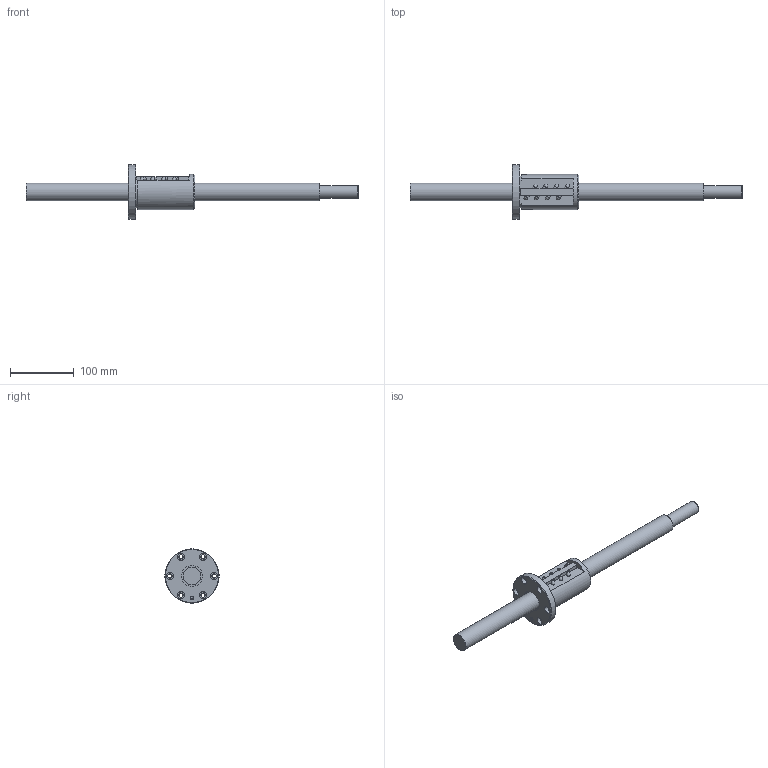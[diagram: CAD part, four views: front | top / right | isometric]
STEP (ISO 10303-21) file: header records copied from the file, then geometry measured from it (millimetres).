
FILE_DESCRIPTION(/* description */ ('STEP AP203'),/* implementation_level */ '2;1');
FILE_NAME(/* name */ 'BIF2806-10RRG0+520LC5A(00)',/* time_stamp */ '2024-07-15T07:28:43+02:00',/* author */ ('License CC BY-ND 4.0'),/* organization */ ('CADENAS'),/* preprocessor_version */ 'ST-DEVELOPER v19.3',/* originating_system */ 'PARTsolutions',/* authorisation */ ' ');
FILE_SCHEMA (('CONFIG_CONTROL_DESIGN'));
Length unit declared in the file: millimetre
Products named in the file (3): BIF2806-10RRG0+520LC5A(00); BIF2806-10RRG0+520LC5, C7A(0)_shaft; BIF 2806-10RR_nut
Assembly tree (2 placements, depth 2):
  BIF2806-10RRG0+520LC5A(00)
    BIF2806-10RRG0+520LC5, C7A(0)_shaft
    BIF 2806-10RR_nut
Bounding box: 520 x 85 x 85 mm (x, y, z)
Volume: 501231.4 mm3; surface area: 87557.2 mm2
Topology: 2 solids, 2 shells, 93 faces, 211 edges, 139 vertices
Faces by surface type: cylinder 44, plane 32, cone 9, torus 8
Full cylindrical faces by diameter (mm): 4.25 x2, 4.917 x1, 5.1 x8, 6.6 x6, 11 x6, 20.3 x1, 28 x2, 33 x2, 55 x1, 85 x1
Entity records: 2559 total; most frequent: CARTESIAN_POINT 505, DIRECTION 436, ORIENTED_EDGE 316, AXIS2_PLACEMENT_3D 198, EDGE_LOOP 181, FACE_BOUND 181, EDGE_CURVE 158, VERTEX_POINT 125
